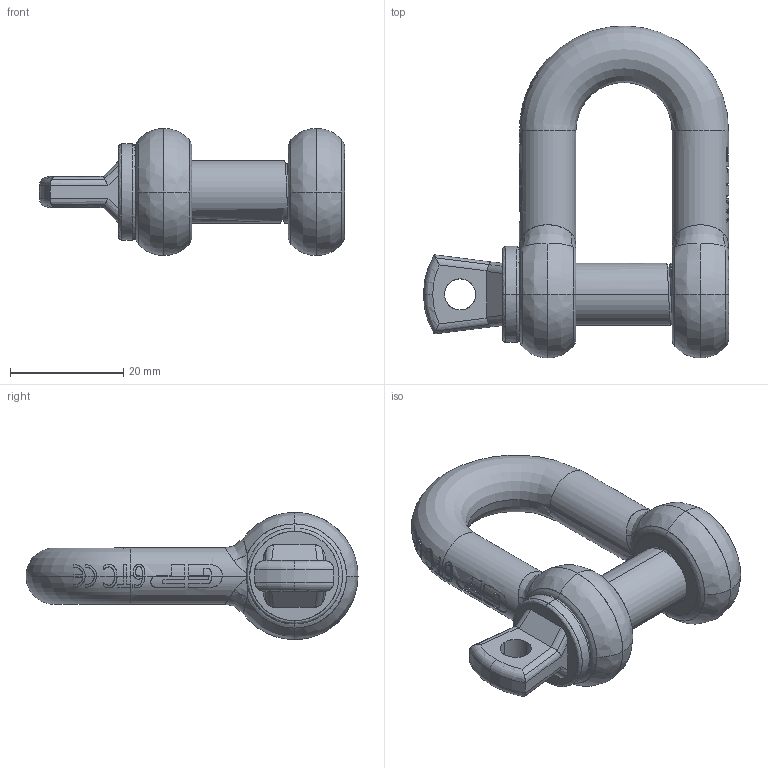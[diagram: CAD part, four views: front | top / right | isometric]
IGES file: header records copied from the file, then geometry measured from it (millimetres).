
Start section: START RECORD GO HERE.
Global section: file name: 1.igs; native system: Solidworks 2009      A Version 5 Release 17 ; preprocessor: Solidworks                 ; author: v.b.; organization: P4; date: 20090807.081906; units: millimetre
Bounding box: 54 x 58.74 x 22.5 mm (x, y, z)
Surface area: 7869.5 mm2 (no closed solid volume)
Topology: 0 solids, 0 shells, 327 faces, 2650 edges, 2642 vertices
Faces by surface type: bspline 117, revolution 112, plane 98
